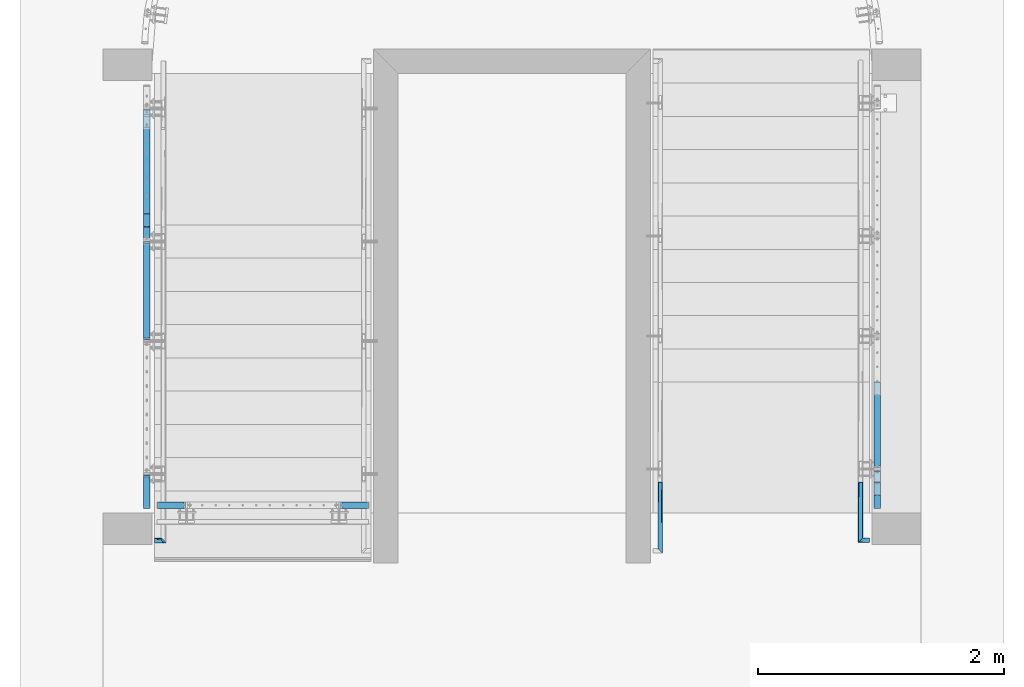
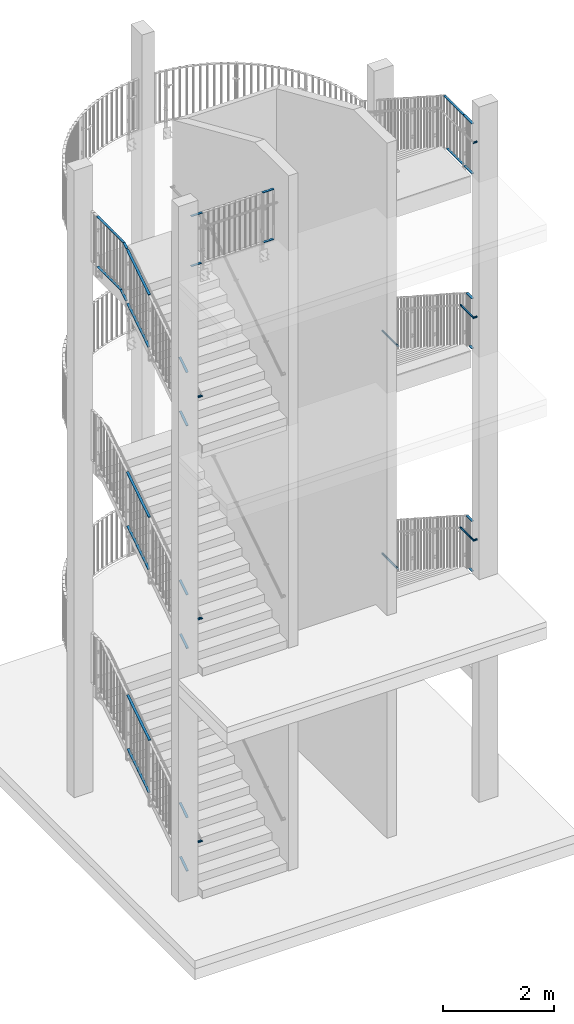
# One storey, part 98 of 296: 24 beams, 14 members, 13 openings.
"""IFC2X3 building model written with IfcOpenShell, lengths in millimetres."""

from ifc_helpers import new_model, entity, si_unit, converted_unit, frame, origin, origin_with_axes, origin_2d, place, context, project, spatial, polyline, rectangle, circle, outline, extrude, clip, halfspace, material, element, save


model = new_model("IFC2X3")

# Units and contexts
model_context = context("Model", 3, precision=1e-09, world=origin_with_axes())
ifc_project = project(units=[si_unit("LENGTHUNIT", "METRE", prefix="MILLI"), si_unit("AREAUNIT", "SQUARE_METRE"), si_unit("VOLUMEUNIT", "CUBIC_METRE"), converted_unit("PLANEANGLEUNIT", "DEGREE", entity("IfcPlaneAngleMeasure", 0.01745329), si_unit("PLANEANGLEUNIT", "RADIAN"), dimensions=[0, 0, 0, 0, 0, 0, 0])], contexts=[model_context])

# Site, building, storey
site_placement = place(None, origin_with_axes())
site = spatial("IfcSite", under=ifc_project, at=site_placement, Name="TZD-S?d | Treppenhausgel?nder", CompositionType="ELEMENT")
building_placement = place(site_placement, origin_with_axes())
building = spatial("IfcBuilding", under=site, at=building_placement, Name="Struktur 1", CompositionType="ELEMENT")
storey_placement = place(building_placement, origin_with_axes())
storey = spatial("IfcBuildingStorey", under=building, at=storey_placement, Name="Default Storey", CompositionType="ELEMENT", Elevation=0.0)

# Beams
ifc_material_1 = material(Name="Buche")
beam_1_placement = place(None, frame((130.0, -3998.211535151, 10950.057203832), z_axis=(-1.0, 0.0, 0.0), x_axis=(0.0, -1.0, 0.0)))
element("IfcBeam", 1, at=beam_1_placement, inside=storey, material=ifc_material_1, Name="Girder", ObjectType="Girder", context=model_context, shape_type="Clipping", body=[
    clip(extrude(circle(Radius=20.0, at=origin_2d()), origin(), (0.0, 0.0, 1.0), 110.0), halfspace(frame((-5125.1057348, -10220.458035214, -1212.462470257), z_axis=(0.593561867, -0.384297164, 0.707106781), x_axis=(0.765922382, 0.0, -0.642933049)), True)),
])
beam_2_placement = place(None, frame((130.0, -3998.194791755, 6059.301035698), z_axis=(-1.0, 0.0, 0.0), x_axis=(0.0, -1.0, 0.0)))
element("IfcBeam", 2, at=beam_2_placement, inside=storey, material=ifc_material_1, Name="Girder", ObjectType="Girder", context=model_context, shape_type="Clipping", body=[
    clip(extrude(circle(Radius=20.0, at=origin_2d()), origin(), (0.0, 0.0, 1.0), 110.0), halfspace(frame((-4004.800913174, -6055.038396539, 122.138007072), z_axis=(0.594153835, -0.383381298, 0.707106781), x_axis=(0.765606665, 0.0, -0.643308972)), True)),
])
beam_3_placement = place(None, frame((130.0, -3998.221647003, 1157.201030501), z_axis=(-1.0, 0.0, 0.0), x_axis=(0.0, -1.0, 0.0)))
element("IfcBeam", 3, at=beam_3_placement, inside=storey, material=ifc_material_1, Name="Girder", ObjectType="Girder", context=model_context, shape_type="Clipping", body=[
    clip(extrude(circle(Radius=20.0, at=origin_2d()), origin(), (0.0, 0.0, 1.0), 110.0), halfspace(frame((-2893.214515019, -1874.088300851, 1447.181885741), z_axis=(0.593204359, -0.384848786, 0.707106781), x_axis=(0.766113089, 0.0, -0.642705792)), True)),
])
ifc_material_2 = material(Name="S235JR")
beam_4_placement = place(None, frame((5894.999, -3437.5, 13645.0), z_axis=(0.0, -1.0, 0.0), x_axis=(0.0, 0.0, 1.0)))
element("IfcBeam", 4, at=beam_4_placement, inside=storey, material=ifc_material_2, Name="-", ObjectType="-", context=model_context, shape_type="SweptSolid", body=[
    extrude(rectangle(XDim=10.0, YDim=50.0, at=origin_2d()), origin(), (0.0, 0.0, 1.0), 297.5),
])
beam_5_placement = place(None, frame((5894.999, -3422.5, 14745.0), z_axis=(0.0, -1.0, 0.0), x_axis=(0.0, 0.0, 1.0)))
element("IfcBeam", 5, at=beam_5_placement, inside=storey, material=ifc_material_2, Name="Gel?nder", ObjectType="Gel?nder", context=model_context, shape_type="SweptSolid", body=[
    extrude(rectangle(XDim=10.0, YDim=50.0, at=origin_2d()), origin(), (0.0, 0.0, 1.0), 312.5),
])
beam_6_placement = place(None, frame((5894.999, -2684.895707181, 14745.0), z_axis=(0.0, -1.0, 0.0), x_axis=(0.0, 0.0, 1.0)))
element("IfcBeam", 6, at=beam_6_placement, inside=storey, material=ifc_material_2, Name="Gel?nder", ObjectType="Gel?nder", context=model_context, shape_type="Clipping", body=[
    clip(extrude(rectangle(XDim=10.0, YDim=50.0, at=origin_2d()), origin(), (0.0, 0.0, 1.0), 722.604292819), halfspace(frame((-12824.332258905, 5894.999, 3815.678719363), z_axis=(0.28335204, 0.0, 0.959015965), x_axis=(0.0, -1.0, 0.0)), True)),
])
beam_7_placement = place(None, frame((5894.999, -3392.5, 13645.0), z_axis=(0.0, -1.0, 0.0), x_axis=(0.0, 0.0, 1.0)))
element("IfcBeam", 7, at=beam_7_placement, inside=storey, material=ifc_material_2, Name="-", ObjectType="-", context=model_context, shape_type="Clipping", body=[
    clip(extrude(rectangle(XDim=10.0, YDim=50.0, at=origin_2d()), origin(), (0.0, 0.0, -1.0), 602.441191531), halfspace(frame((-11784.072545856, 5894.999, 2905.881109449), z_axis=(0.28335204, 0.0, 0.959015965), x_axis=(0.0, -1.0, 0.0)), True)),
])
beam_8_placement = place(None, frame((5894.999, -3605.021122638, 9795.0), z_axis=(0.0, -1.0, 0.0), x_axis=(0.0, 0.0, 1.0)))
element("IfcBeam", 8, at=beam_8_placement, inside=storey, material=ifc_material_2, Name="-", ObjectType="-", context=model_context, shape_type="Clipping", body=[
    clip(extrude(rectangle(XDim=10.0, YDim=50.0, at=origin_2d()), origin(), (0.0, 0.0, 1.0), 129.978877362), halfspace(frame((-8021.077834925, 5894.999, 2397.178513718), z_axis=(0.283426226, 0.0, 0.958994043), x_axis=(0.0, -1.0, 0.0)), True)),
])
beam_9_placement = place(None, frame((5894.999, -3499.895519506, 10895.0), z_axis=(0.0, -1.0, 0.0), x_axis=(0.0, 0.0, 1.0)))
element("IfcBeam", 9, at=beam_9_placement, inside=storey, material=ifc_material_2, Name="Gel?nder", ObjectType="Gel?nder", context=model_context, shape_type="Clipping", body=[
    clip(extrude(rectangle(XDim=10.0, YDim=50.0, at=origin_2d()), origin(), (0.0, 0.0, 1.0), 235.104480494), halfspace(frame((-9061.287932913, 5894.999, 2704.607766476), z_axis=(0.283426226, 0.0, 0.958994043), x_axis=(0.0, -1.0, 0.0)), True)),
])
beam_10_placement = place(None, frame((5759.999, -4035.0, 10680.0), z_axis=(0.0, 1.0, 0.0), x_axis=(-1.0, 0.0, 0.0)))
element("IfcBeam", 10, at=beam_10_placement, inside=storey, material=ifc_material_1, Name="Girder", ObjectType="Girder", context=model_context, shape_type="Clipping", body=[
    clip(clip(extrude(circle(Radius=20.0, at=origin_2d()), origin(), (0.0, 0.0, 1.0), 533.579776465), halfspace(frame((5759.999, -8862.314546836, -2115.174181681), z_axis=(0.0, 0.283430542, -0.958992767), x_axis=(-1.0, 0.0, 0.0)), True)), halfspace(frame((882.500207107, -10680.0, -842.498792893), z_axis=(0.707106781, 0.0, 0.707106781), x_axis=(0.707106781, 0.0, -0.707106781)), True)),
])
beam_11_placement = place(None, frame((5894.999, -3600.209507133, 4895.0), z_axis=(0.0, -1.0, 0.0), x_axis=(0.0, 0.0, 1.0)))
element("IfcBeam", 11, at=beam_11_placement, inside=storey, material=ifc_material_2, Name="-", ObjectType="-", context=model_context, shape_type="Clipping", body=[
    clip(extrude(rectangle(XDim=10.0, YDim=50.0, at=origin_2d()), origin(), (0.0, 0.0, 1.0), 134.790492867), halfspace(frame((-3518.209319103, 5894.999, 1064.895881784), z_axis=(0.28305571, 0.0, 0.959103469), x_axis=(0.0, -1.0, 0.0)), True)),
])
beam_12_placement = place(None, frame((5894.999, -3494.896455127, 5995.0), z_axis=(0.0, -1.0, 0.0), x_axis=(0.0, 0.0, 1.0)))
element("IfcBeam", 12, at=beam_12_placement, inside=storey, material=ifc_material_2, Name="Gel?nder", ObjectType="Gel?nder", context=model_context, shape_type="Clipping", body=[
    clip(extrude(rectangle(XDim=10.0, YDim=50.0, at=origin_2d()), origin(), (0.0, 0.0, 1.0), 240.103544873), halfspace(frame((-4558.667087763, 5894.999, 1371.961304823), z_axis=(0.28305571, 0.0, 0.959103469), x_axis=(0.0, -1.0, 0.0)), True)),
])
beam_13_placement = place(None, frame((5759.999, -4035.0, 5780.0), z_axis=(0.0, 1.0, 0.0), x_axis=(-1.0, 0.0, 0.0)))
element("IfcBeam", 13, at=beam_13_placement, inside=storey, material=ifc_material_1, Name="Girder", ObjectType="Girder", context=model_context, shape_type="Clipping", body=[
    clip(clip(extrude(circle(Radius=20.0, at=origin_2d()), origin(), (0.0, 0.0, 1.0), 538.584770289), halfspace(frame((5759.999, -4359.691194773, -777.561817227), z_axis=(0.0, 0.28305571, -0.959103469), x_axis=(-1.0, 0.0, 0.0)), True)), halfspace(frame((882.500207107, -5780.0, -842.498792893), z_axis=(0.707106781, 0.0, 0.707106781), x_axis=(0.707106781, 0.0, -0.707106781)), True)),
])
beam_14_placement = place(None, frame((5829.999, -3995.0, 5780.0), z_axis=(-1.0, 0.0, 0.0), x_axis=(0.0, -1.0, 0.0)))
element("IfcBeam", 14, at=beam_14_placement, inside=storey, material=ifc_material_1, Name="Girder", ObjectType="Girder", context=model_context, shape_type="Clipping", body=[
    clip(extrude(circle(Radius=20.0, at=origin_2d()), origin(), (0.0, 0.0, 1.0), 110.0), halfspace(frame((882.500207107, -5780.0, 952.498792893), z_axis=(0.707106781, 0.0, -0.707106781), x_axis=(-0.707106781, 0.0, -0.707106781)), True)),
])
beam_15_placement = place(None, frame((5829.999, -3995.0, 10680.0), z_axis=(-1.0, 0.0, 0.0), x_axis=(0.0, -1.0, 0.0)))
element("IfcBeam", 15, at=beam_15_placement, inside=storey, material=ifc_material_1, Name="Girder", ObjectType="Girder", context=model_context, shape_type="Clipping", body=[
    clip(extrude(circle(Radius=20.0, at=origin_2d()), origin(), (0.0, 0.0, 1.0), 110.0), halfspace(frame((882.500207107, -10680.0, 952.498792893), z_axis=(0.707106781, 0.0, -0.707106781), x_axis=(-0.707106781, 0.0, -0.707106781)), True)),
])
beam_16_placement = place(None, frame((5829.999, -3995.0, 14530.0), z_axis=(-1.0, 0.0, 0.0), x_axis=(0.0, -1.0, 0.0)))
element("IfcBeam", 16, at=beam_16_placement, inside=storey, material=ifc_material_1, Name="Girder", ObjectType="Girder", context=model_context, shape_type="Clipping", body=[
    clip(extrude(circle(Radius=20.0, at=origin_2d()), origin(), (0.0, 0.0, 1.0), 110.0), halfspace(frame((882.500207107, -14530.0, 952.498792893), z_axis=(0.707106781, 0.0, -0.707106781), x_axis=(-0.707106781, 0.0, -0.707106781)), True)),
])
beam_17_placement = place(None, frame((4129.999, -4120.0, 10680.0), z_axis=(0.0, -1.0, 0.0), x_axis=(1.0, 0.0, 0.0)))
element("IfcBeam", 17, at=beam_17_placement, inside=storey, material=ifc_material_1, Name="Girder", ObjectType="Girder", context=model_context, shape_type="Clipping", body=[
    clip(clip(extrude(circle(Radius=20.0, at=origin_2d()), origin(), (0.0, 0.0, -1.0), 618.579776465), halfspace(frame((-4129.999, -8862.314546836, 2030.174181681), z_axis=(0.0, 0.283430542, 0.958992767), x_axis=(1.0, 0.0, 0.0)), True)), halfspace(frame((-4104.998792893, -10680.0, -4145.000207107), z_axis=(0.707106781, 0.0, -0.707106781), x_axis=(-0.707106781, 0.0, -0.707106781)), True)),
])
beam_18_placement = place(None, frame((4129.999, -4120.0, 5780.0), z_axis=(0.0, -1.0, 0.0), x_axis=(1.0, 0.0, 0.0)))
element("IfcBeam", 18, at=beam_18_placement, inside=storey, material=ifc_material_1, Name="Girder", ObjectType="Girder", context=model_context, shape_type="Clipping", body=[
    clip(clip(extrude(circle(Radius=20.0, at=origin_2d()), origin(), (0.0, 0.0, -1.0), 623.584770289), halfspace(frame((-4104.998792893, -5780.0, -4145.000207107), z_axis=(0.707106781, 0.0, -0.707106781), x_axis=(-0.707106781, 0.0, -0.707106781)), True)), halfspace(frame((-4129.999, -4359.691194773, 692.561817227), z_axis=(0.0, 0.28305571, 0.959103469), x_axis=(1.0, 0.0, 0.0)), True)),
])
beam_19_placement = place(None, frame((1542.501414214, -3710.001, 13645.0), z_axis=(1.0, 0.0, 0.0), x_axis=(0.0, 0.0, 1.0)))
element("IfcBeam", 19, at=beam_19_placement, inside=storey, material=ifc_material_2, Name="-", ObjectType="-", context=model_context, shape_type="SweptSolid", body=[
    extrude(rectangle(XDim=10.0, YDim=50.0, at=origin_2d()), origin(), (0.0, 0.0, 1.0), 217.5),
])
beam_20_placement = place(None, frame((1527.501414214, -3710.001, 14745.0), z_axis=(1.0, 0.0, 0.0), x_axis=(0.0, 0.0, 1.0)))
element("IfcBeam", 20, at=beam_20_placement, inside=storey, material=ifc_material_2, Name="Gel?nder", ObjectType="Gel?nder", context=model_context, shape_type="SweptSolid", body=[
    extrude(rectangle(XDim=10.0, YDim=50.0, at=origin_2d()), origin(), (0.0, 0.0, 1.0), 232.5),
])
beam_21_placement = place(None, frame((257.499999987, -3710.001, 13645.0), z_axis=(1.0, 0.0, 0.0), x_axis=(0.0, 0.0, 1.0)))
element("IfcBeam", 21, at=beam_21_placement, inside=storey, material=ifc_material_2, Name="-", ObjectType="-", context=model_context, shape_type="SweptSolid", body=[
    extrude(rectangle(XDim=10.0, YDim=50.0, at=origin_2d()), origin(), (0.0, 0.0, -1.0), 217.5),
])
beam_22_placement = place(None, frame((272.499999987, -3710.001, 14745.0), z_axis=(1.0, 0.0, 0.0), x_axis=(0.0, 0.0, 1.0)))
element("IfcBeam", 22, at=beam_22_placement, inside=storey, material=ifc_material_2, Name="Gel?nder", ObjectType="Gel?nder", context=model_context, shape_type="SweptSolid", body=[
    extrude(rectangle(XDim=10.0, YDim=50.0, at=origin_2d()), origin(), (0.0, 0.0, -1.0), 232.5),
])
beam_23_placement = place(None, frame((-45.0, -487.5, 12820.0), z_axis=(0.0, 1.0, 0.0), x_axis=(0.0, 0.0, 1.0)))
element("IfcBeam", 23, at=beam_23_placement, inside=storey, material=ifc_material_2, Name="Gel?nder", ObjectType="Gel?nder", context=model_context, shape_type="Clipping", body=[
    clip(extrude(rectangle(XDim=10.0, YDim=50.0, at=origin_2d()), origin(), (0.0, 0.0, -1.0), 985.604792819), halfspace(frame((-12183.778828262, 45.0, 2640.815219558), z_axis=(0.28335204, 0.0, 0.959015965), x_axis=(0.0, -1.0, 0.0)), True)),
])

# Member, openings
member_1_placement = place(None, frame((-45.0, -1564.782608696, 12743.431860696), z_axis=(0.0, 0.839423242, 0.543478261), x_axis=(0.0, -0.543478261, 0.839423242)))
member_1 = element("IfcMember", 24, at=member_1_placement, inside=storey, material=ifc_material_2, Name="Gel?nder", ObjectType="Gel?nder", context=model_context, shape_type="SweptSolid", body=[
    extrude(rectangle(XDim=10.0, YDim=50.0, at=origin_2d()), origin(), (0.0, 0.0, -1.0), 953.553275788),
])
opening_1_placement = place(member_1_placement, frame((0.0, 125.1, 0.0), z_axis=(0.0, -1.0, 0.0), x_axis=(0.543478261, 0.0, -0.839423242)))
element("IfcOpeningElement", 25, at=opening_1_placement, cuts=member_1, ObjectType="Opening", context=model_context, shape_type="SweptSolid", body=[
    extrude(outline(polyline([(-27.485006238, -37.44459), (2.718391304, -37.44459), (2.718391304, 53.017874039), (-27.485006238, 53.017874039), (-27.485006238, -37.44459)])), origin(), (0.0, 0.0, 1.0), 250.2),
])
opening_2_placement = place(member_1_placement, frame((0.0, 125.1, -953.553275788), z_axis=(0.0, -1.0, 0.0), x_axis=(0.543478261, 0.0, -0.839423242)))
element("IfcOpeningElement", 26, at=opening_2_placement, cuts=member_1, ObjectType="Opening", context=model_context, shape_type="SweptSolid", body=[
    extrude(outline(polyline([(-2.718391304, -23.028623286), (38.868531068, -23.028623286), (38.868531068, 36.773954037), (-2.718391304, 36.773954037), (-2.718391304, -23.028623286)])), origin(), (0.0, 0.0, 1.0), 250.2),
])

# Member, opening
member_2_placement = place(None, frame((-45.0, -1424.204381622, 12834.44817583), z_axis=(0.0, 0.839423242, 0.543478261), x_axis=(0.0, -0.543478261, 0.839423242)))
member_2 = element("IfcMember", 27, at=member_2_placement, inside=storey, material=ifc_material_2, Name="-", ObjectType="-", context=model_context, shape_type="Clipping", body=[
    clip(extrude(rectangle(XDim=10.0, YDim=50.0, at=origin_2d()), origin(), (0.0, 0.0, -1.0), 156.075032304), halfspace(frame((-12183.778828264, 45.0, -3626.420012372), z_axis=(0.28335204, 0.0, -0.959015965), x_axis=(0.0, 1.0, 0.0)), True)),
])
opening_3_placement = place(member_2_placement, frame((0.0, 125.1, -156.075032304), z_axis=(0.0, -1.0, 0.0), x_axis=(0.543478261, 0.0, -0.839423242)))
element("IfcOpeningElement", 28, at=opening_3_placement, cuts=member_2, ObjectType="Opening", context=model_context, shape_type="SweptSolid", body=[
    extrude(outline(polyline([(-2.718391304, -33.167555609), (39.482857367, -33.167555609), (39.482857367, 40.752334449), (-2.718391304, 40.752334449), (-2.718391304, -33.167555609)])), origin(), (0.0, 0.0, 1.0), 250.2),
])

# Member, openings
member_3_placement = place(None, frame((-45.0, -1564.789084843, 7847.322158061), z_axis=(0.0, 0.840260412, 0.542183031), x_axis=(0.0, -0.542183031, 0.840260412)))
member_3 = element("IfcMember", 29, at=member_3_placement, inside=storey, material=ifc_material_2, Name="Gel?nder", ObjectType="Gel?nder", context=model_context, shape_type="SweptSolid", body=[
    extrude(rectangle(XDim=10.0, YDim=50.0, at=origin_2d()), origin(), (0.0, 0.0, -1.0), 952.58781521),
])
opening_4_placement = place(member_3_placement, frame((0.0, 125.1, 0.0), z_axis=(0.0, -1.0, 0.0), x_axis=(0.542183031, 0.0, -0.840260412)))
element("IfcOpeningElement", 30, at=opening_4_placement, cuts=member_3, ObjectType="Opening", context=model_context, shape_type="SweptSolid", body=[
    extrude(outline(polyline([(-20.486626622, -29.11686133), (2.711915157, -29.11686133), (2.711915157, 44.052935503), (-20.486626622, 44.052935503), (-20.486626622, -29.11686133)])), origin(), (0.0, 0.0, 1.0), 250.2),
])
opening_5_placement = place(member_3_placement, frame((0.0, 125.1, -952.58781521), z_axis=(0.0, -1.0, 0.0), x_axis=(0.542183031, 0.0, -0.840260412)))
element("IfcOpeningElement", 31, at=opening_5_placement, cuts=member_3, ObjectType="Opening", context=model_context, shape_type="SweptSolid", body=[
    extrude(outline(polyline([(-2.711915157, -15.531008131), (36.922334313, -15.531008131), (36.922334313, 39.346862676), (-2.711915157, 39.346862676), (-2.711915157, -15.531008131)])), origin(), (0.0, 0.0, 1.0), 250.2),
])

member_4_placement = place(None, frame((-45.0, -1574.778708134, 2947.320289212), z_axis=(0.0, 0.83891765, 0.544258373), x_axis=(0.0, -0.544258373, 0.83891765)))
member_4 = element("IfcMember", 32, at=member_4_placement, inside=storey, material=ifc_material_2, Name="Gel?nder", ObjectType="Gel?nder", context=model_context, shape_type="SweptSolid", body=[
    extrude(rectangle(XDim=10.0, YDim=50.0, at=origin_2d()), origin(), (0.0, 0.0, -1.0), 954.137255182),
])
opening_6_placement = place(member_4_placement, frame((0.0, 125.1, -954.137255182), z_axis=(0.0, -1.0, 0.0), x_axis=(0.544258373, 0.0, -0.83891765)))
element("IfcOpeningElement", 33, at=opening_6_placement, cuts=member_4, ObjectType="Opening", context=model_context, shape_type="SweptSolid", body=[
    extrude(outline(polyline([(-2.722291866, -14.915028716), (25.029101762, -14.915028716), (25.029101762, 31.266990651), (-2.722291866, 31.266990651), (-2.722291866, -14.915028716)])), origin(), (0.0, 0.0, 1.0), 250.2),
])
opening_7_placement = place(member_4_placement, frame((0.0, 125.1, 0.0), z_axis=(0.0, -1.0, 0.0), x_axis=(0.544258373, 0.0, -0.83891765)))
element("IfcOpeningElement", 34, at=opening_7_placement, cuts=member_4, ObjectType="Opening", context=model_context, shape_type="SweptSolid", body=[
    extrude(outline(polyline([(-28.064989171, -30.009734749), (2.722291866, -30.009734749), (2.722291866, 34.065378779), (-28.064989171, 34.065378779), (-28.064989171, -30.009734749)])), origin(), (0.0, 0.0, 1.0), 250.2),
])

# Members
member_5_placement = place(None, frame((-45.0, -1549.504902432, 11585.236238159), z_axis=(0.0, 0.839423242, 0.543478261), x_axis=(0.0, -0.543478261, 0.839423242)))
element("IfcMember", 35, at=member_5_placement, inside=storey, material=ifc_material_2, Name="-", ObjectType="-", context=model_context, shape_type="Clipping", body=[
    clip(clip(extrude(rectangle(XDim=10.0, YDim=50.0, at=origin_2d()), origin(), (0.0, 0.0, -1.0), 989.953760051), halfspace(frame((-9706.983905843, 45.0, -6324.021733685), z_axis=(0.543478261, 0.0, -0.839423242), x_axis=(0.0, 1.0, 0.0)), True)), halfspace(frame((-9291.224123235, 45.0, -6966.178835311), z_axis=(-0.543478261, 0.0, 0.839423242), x_axis=(0.0, -1.0, 0.0)), True)),
])
member_6_placement = place(None, frame((-45.0, -1319.041280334, 11734.44817583), z_axis=(0.0, 0.839423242, 0.543478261), x_axis=(0.0, -0.543478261, 0.839423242)))
element("IfcMember", 36, at=member_6_placement, inside=storey, material=ifc_material_2, Name="-", ObjectType="-", context=model_context, shape_type="Clipping", body=[
    clip(clip(extrude(rectangle(XDim=10.0, YDim=50.0, at=origin_2d()), origin(), (0.0, 0.0, -1.0), 299.555462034), halfspace(frame((-11143.519115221, 45.0, -3319.063593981), z_axis=(0.28335204, 0.0, -0.959015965), x_axis=(0.0, 1.0, 0.0)), True)), halfspace(frame((-9731.441514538, 45.0, -6560.795974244), z_axis=(-0.543478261, 0.0, 0.839423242), x_axis=(0.0, -1.0, 0.0)), True)),
])
member_7_placement = place(None, frame((-45.0, -1549.504902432, 6689.085440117), z_axis=(0.0, 0.840260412, 0.542183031), x_axis=(0.0, -0.542183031, 0.840260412)))
element("IfcMember", 37, at=member_7_placement, inside=storey, material=ifc_material_2, Name="-", ObjectType="-", context=model_context, shape_type="Clipping", body=[
    clip(clip(extrude(rectangle(XDim=10.0, YDim=50.0, at=origin_2d()), origin(), (0.0, 0.0, -1.0), 988.967447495), halfspace(frame((-5602.683765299, 45.0, -3654.433936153), z_axis=(0.542183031, 0.0, -0.840260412), x_axis=(0.0, 1.0, 0.0)), True)), halfspace(frame((-5187.914830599, 45.0, -4297.231471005), z_axis=(-0.542183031, 0.0, 0.840260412), x_axis=(0.0, -1.0, 0.0)), True)),
])
member_8_placement = place(None, frame((-45.0, -1559.504902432, 1789.149483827), z_axis=(0.0, 0.83891765, 0.544258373), x_axis=(0.0, -0.544258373, 0.83891765)))
element("IfcMember", 38, at=member_8_placement, inside=storey, material=ifc_material_2, Name="-", ObjectType="-", context=model_context, shape_type="Clipping", body=[
    clip(clip(extrude(rectangle(XDim=10.0, YDim=50.0, at=origin_2d()), origin(), (0.0, 0.0, -1.0), 990.550377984), halfspace(frame((-1482.990677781, 45.0, -1001.440596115), z_axis=(0.544258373, 0.0, -0.83891765), x_axis=(0.0, 1.0, 0.0)), True)), halfspace(frame((-1066.634110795, 45.0, -1643.210920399), z_axis=(-0.544258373, 0.0, 0.83891765), x_axis=(0.0, -1.0, 0.0)), True)),
])

# Member, opening
member_9_placement = place(None, frame((-45.0, -3464.778708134, 1721.159025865), z_axis=(0.0, 0.83891765, 0.544258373), x_axis=(0.0, -0.544258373, 0.83891765)))
member_9 = element("IfcMember", 39, at=member_9_placement, inside=storey, material=ifc_material_2, Name="Gel?nder", ObjectType="Gel?nder", context=model_context, shape_type="Clipping", body=[
    clip(extrude(rectangle(XDim=10.0, YDim=50.0, at=origin_2d()), origin(), (0.0, 0.0, -1.0), 345.161265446), halfspace(frame((-3529.822276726, 45.0, 1601.428471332), z_axis=(0.477358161, 0.0, 0.878708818), x_axis=(0.0, -1.0, 0.0)), True)),
])
opening_8_placement = place(member_9_placement, frame((0.0, 125.1, 0.0), z_axis=(0.0, -1.0, 0.0), x_axis=(0.544258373, 0.0, -0.83891765)))
element("IfcOpeningElement", 40, at=opening_8_placement, cuts=member_9, ObjectType="Opening", context=model_context, shape_type="SweptSolid", body=[
    extrude(outline(polyline([(-28.794612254, -28.496813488), (2.722291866, -28.496813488), (2.722291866, 35.126519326), (-28.794612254, 35.126519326), (-28.794612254, -28.496813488)])), origin(), (0.0, 0.0, 1.0), 250.2),
])

member_10_placement = place(None, frame((-45.0, -3449.504902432, 562.98822048), z_axis=(0.0, 0.83891765, 0.544258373), x_axis=(0.0, -0.544258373, 0.83891765)))
member_10 = element("IfcMember", 41, at=member_10_placement, inside=storey, material=ifc_material_2, Name="-", ObjectType="-", context=model_context, shape_type="Clipping", body=[
    clip(extrude(rectangle(XDim=10.0, YDim=50.0, at=origin_2d()), origin(), (0.0, 0.0, -1.0), 343.557427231), halfspace(frame((-454.342352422, 45.0, -334.092061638), z_axis=(0.544258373, 0.0, -0.83891765), x_axis=(0.0, 1.0, 0.0)), True)),
])
opening_9_placement = place(member_10_placement, frame((0.0, 125.1, -343.557427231), z_axis=(0.0, -1.0, 0.0), x_axis=(0.544258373, 0.0, -0.83891765)))
element("IfcOpeningElement", 42, at=opening_9_placement, cuts=member_10, ObjectType="Opening", context=model_context, shape_type="SweptSolid", body=[
    extrude(outline(polyline([(-2.722291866, -20.129327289), (24.955542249, -20.129327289), (24.955542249, 18.678150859), (-2.722291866, 18.678150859), (-2.722291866, -20.129327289)])), origin(), (0.0, 0.0, 1.0), 250.2),
])

member_11_placement = place(None, frame((-45.0, -3464.789084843, 6621.335851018), z_axis=(0.0, 0.840260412, 0.542183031), x_axis=(0.0, -0.542183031, 0.840260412)))
member_11 = element("IfcMember", 43, at=member_11_placement, inside=storey, material=ifc_material_2, Name="Gel?nder", ObjectType="Gel?nder", context=model_context, shape_type="Clipping", body=[
    clip(extrude(rectangle(XDim=10.0, YDim=50.0, at=origin_2d()), origin(), (0.0, 0.0, -1.0), 353.840035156), halfspace(frame((-5586.097642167, 45.0, 2727.964208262), z_axis=(0.478443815, 0.0, 0.878118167), x_axis=(0.0, -1.0, 0.0)), True)),
])
opening_10_placement = place(member_11_placement, frame((0.0, 125.1, 0.0), z_axis=(0.0, -1.0, 0.0), x_axis=(0.542183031, 0.0, -0.840260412)))
element("IfcOpeningElement", 44, at=opening_10_placement, cuts=member_11, ObjectType="Opening", context=model_context, shape_type="SweptSolid", body=[
    extrude(outline(polyline([(-22.76213878, -29.976690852), (2.711915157, -29.976690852), (2.711915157, 52.307540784), (-22.76213878, 52.307540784), (-22.76213878, -29.976690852)])), origin(), (0.0, 0.0, 1.0), 250.2),
])

member_12_placement = place(None, frame((-45.0, -3449.504902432, 5463.099133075), z_axis=(0.0, 0.840260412, 0.542183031), x_axis=(0.0, -0.542183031, 0.840260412)))
member_12 = element("IfcMember", 45, at=member_12_placement, inside=storey, material=ifc_material_2, Name="-", ObjectType="-", context=model_context, shape_type="Clipping", body=[
    clip(extrude(rectangle(XDim=10.0, YDim=50.0, at=origin_2d()), origin(), (0.0, 0.0, -1.0), 342.996062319), halfspace(frame((-4572.536005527, 45.0, -2989.724963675), z_axis=(0.542183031, 0.0, -0.840260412), x_axis=(0.0, 1.0, 0.0)), True)),
])
opening_11_placement = place(member_12_placement, frame((0.0, 125.1, -342.996062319), z_axis=(0.0, -1.0, 0.0), x_axis=(0.542183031, 0.0, -0.840260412)))
element("IfcOpeningElement", 46, at=opening_11_placement, cuts=member_12, ObjectType="Opening", context=model_context, shape_type="SweptSolid", body=[
    extrude(outline(polyline([(-2.711915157, -43.441138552), (65.926668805, -43.441138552), (65.926668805, 28.488579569), (-2.711915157, 28.488579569), (-2.711915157, -43.441138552)])), origin(), (0.0, 0.0, 1.0), 250.2),
])

member_13_placement = place(None, frame((-45.0, -3454.782608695, 11519.765584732), z_axis=(0.0, 0.839423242, 0.543478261), x_axis=(0.0, -0.543478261, 0.839423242)))
member_13 = element("IfcMember", 47, at=member_13_placement, inside=storey, material=ifc_material_2, Name="Gel?nder", ObjectType="Gel?nder", context=model_context, shape_type="Clipping", body=[
    clip(extrude(rectangle(XDim=10.0, YDim=50.0, at=origin_2d()), origin(), (0.0, 0.0, -1.0), 356.886473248), halfspace(frame((-7636.278633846, 45.0, 3831.095690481), z_axis=(0.477766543, 0.0, 0.878486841), x_axis=(0.0, -1.0, 0.0)), True)),
])
opening_12_placement = place(member_13_placement, frame((0.0, 125.1, 0.0), z_axis=(0.0, -1.0, 0.0), x_axis=(0.543478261, 0.0, -0.839423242)))
element("IfcOpeningElement", 48, at=opening_12_placement, cuts=member_13, ObjectType="Opening", context=model_context, shape_type="SweptSolid", body=[
    extrude(outline(polyline([(-37.62155937, -31.557400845), (2.718391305, -31.557400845), (2.718391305, 49.107578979), (-37.62155937, 49.107578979), (-37.62155937, -31.557400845)])), origin(), (0.0, 0.0, 1.0), 250.2),
])

member_14_placement = place(None, frame((-45.0, -3439.504902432, 10361.569962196), z_axis=(0.0, 0.839423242, 0.543478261), x_axis=(0.0, -0.543478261, 0.839423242)))
member_14 = element("IfcMember", 49, at=member_14_placement, inside=storey, material=ifc_material_2, Name="-", ObjectType="-", context=model_context, shape_type="Clipping", body=[
    clip(extrude(rectangle(XDim=10.0, YDim=50.0, at=origin_2d()), origin(), (0.0, 0.0, -1.0), 355.258794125), halfspace(frame((-8679.809992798, 45.0, -5658.985714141), z_axis=(0.543478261, 0.0, -0.839423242), x_axis=(0.0, 1.0, 0.0)), True)),
])
opening_13_placement = place(member_14_placement, frame((0.0, 125.1, -355.258794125), z_axis=(0.0, -1.0, 0.0), x_axis=(0.543478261, 0.0, -0.839423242)))
element("IfcOpeningElement", 50, at=opening_13_placement, cuts=member_14, ObjectType="Opening", context=model_context, shape_type="SweptSolid", body=[
    extrude(outline(polyline([(-7.718391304, -32.171697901), (55.9418651, -32.171697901), (55.9418651, 23.174274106), (-7.718391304, 23.174274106), (-7.718391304, -32.171697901)])), origin(), (0.0, 0.0, 1.0), 250.2),
])

# Beam
beam_24_placement = place(None, frame((-45.0, -502.5, 11720.0), z_axis=(0.0, 1.0, 0.0), x_axis=(0.0, 0.0, 1.0)))
element("IfcBeam", 51, at=beam_24_placement, inside=storey, material=ifc_material_2, Name="-", ObjectType="-", context=model_context, shape_type="Clipping", body=[
    clip(extrude(rectangle(XDim=10.0, YDim=50.0, at=origin_2d()), origin(), (0.0, 0.0, -1.0), 865.441691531), halfspace(frame((-11143.519115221, 45.0, 2453.621902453), z_axis=(0.28335204, 0.0, 0.959015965), x_axis=(0.0, -1.0, 0.0)), True)),
])

save(model, "model.ifc")
